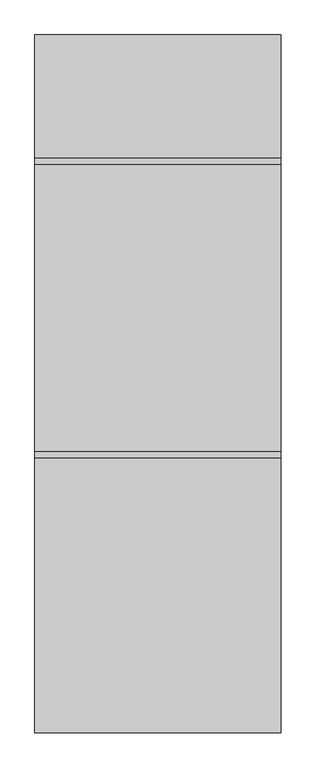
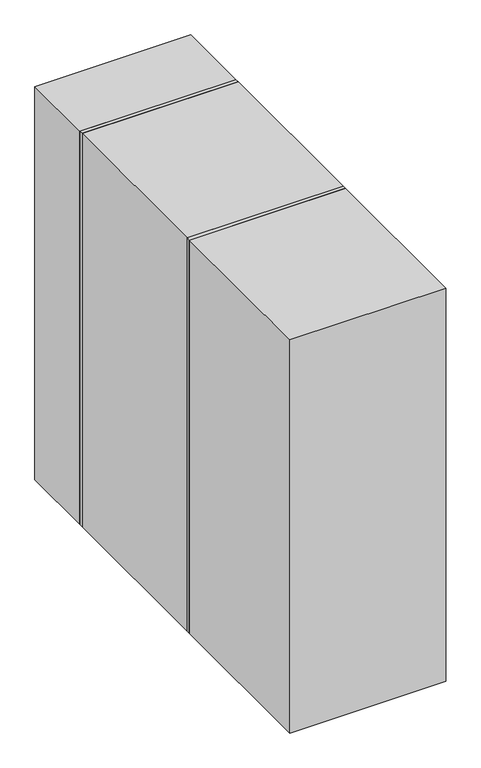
"""IFC4 building model written with IfcOpenShell, lengths in millimetres: furniture geometry, BIMHealth-Gradient_Coil_Heat_Exchanger_Cabinet -LOD2A-v1 : BIMHealth-Gradient_Coil_Heat_Exchanger_Cabinet -LOD2A-v1."""

from ifc_helpers import new_model, si_unit, point, frame, frame_2d, origin, origin_with_axes, place, context, project, spatial, polyline, circle_curve, trimmed, segment, composite_curve, outline, extrude, source, transform, mapped, element, save


def furniture_03daf546(model_context):
    return source(origin(), model_context, "Body", "SweptSolid", [
        extrude(outline(composite_curve([segment(polyline([(1024.3395956, -108.1557307), (1044.3395956, -238.1557307)]), True, "CONTINUOUS"), segment(trimmed(circle_curve(frame_2d((1014.3395956, -238.1557307)), 30.0), [point((1044.3395956, -238.1557307))], [point((984.3395956, -238.1557307))], False, "CARTESIAN"), True, "CONTINUOUS"), segment(polyline([(984.3395956, -238.1557307), (1004.3395956, -108.1557307), (1014.3395956, -108.1557307), (1024.3395956, -108.1557307)]), True, "CONTINUOUS")], self_intersect=False), holes=[composite_curve([segment(trimmed(circle_curve(frame_2d((1014.3395956, -238.1557307)), 10.0), [point((1014.3395956, -228.1557307))], [point((1014.3395956, -248.1557307))], True, "CARTESIAN"), True, "CONTINUOUS"), segment(trimmed(circle_curve(frame_2d((1014.3395956, -238.1557307)), 10.0), [point((1014.3395956, -248.1557307))], [point((1014.3395956, -228.1557307))], True, "CARTESIAN"), True, "CONTINUOUS")], self_intersect=False)]), frame((0.0, 374.7447055, 0.0), z_axis=(0.0, 1.0, 0.0), x_axis=(0.0, 0.0, 1.0)), (0.0, 0.0, 1.0), 15.0),
        extrude(outline(composite_curve([segment(trimmed(circle_curve(frame_2d((1014.3398767, -238.1557307)), 10.0), [point((1014.3398767, -228.1557307))], [point((1014.3398767, -248.1557307))], False, "CARTESIAN"), True, "CONTINUOUS"), segment(trimmed(circle_curve(frame_2d((1014.3398767, -238.1557307)), 10.0), [point((1014.3398767, -248.1557307))], [point((1014.3398767, -228.1557307))], False, "CARTESIAN"), True, "CONTINUOUS")], self_intersect=False)), frame((0.0, 365.0, 0.0), z_axis=(0.0, 1.0, 0.0), x_axis=(0.0, 0.0, 1.0)), (0.0, 0.0, 1.0), 30.0),
        extrude(outline(polyline([(1600.0, -300.0), (0.0, -300.0), (0.0, 300.0), (1600.0, 300.0), (1600.0, -300.0)]), holes=[polyline([(1500.0, -200.0), (1500.0, 200.0), (1485.0, 200.0), (1485.0, -200.0), (1500.0, -200.0)]), polyline([(1460.0, -200.0), (1460.0, 200.0), (1445.0, 200.0), (1445.0, -200.0), (1460.0, -200.0)]), polyline([(1420.0, -200.0), (1420.0, 200.0), (1405.0, 200.0), (1405.0, -200.0), (1420.0, -200.0)]), polyline([(1380.0, -200.0), (1380.0, 200.0), (1365.0, 200.0), (1365.0, -200.0), (1380.0, -200.0)]), polyline([(1340.0, -200.0), (1340.0, 200.0), (1325.0, 200.0), (1325.0, -200.0), (1340.0, -200.0)]), polyline([(1300.0, -200.0), (1300.0, 200.0), (1285.0, 200.0), (1285.0, -200.0), (1300.0, -200.0)]), polyline([(100.0, -200.0), (115.0, -200.0), (115.0, 200.0), (100.0, 200.0), (100.0, -200.0)]), polyline([(140.0, -200.0), (155.0, -200.0), (155.0, 200.0), (140.0, 200.0), (140.0, -200.0)]), polyline([(180.0, -200.0), (195.0, -200.0), (195.0, 200.0), (180.0, 200.0), (180.0, -200.0)]), polyline([(220.0, -200.0), (235.0, -200.0), (235.0, 200.0), (220.0, 200.0), (220.0, -200.0)]), polyline([(260.0, -200.0), (275.0, -200.0), (275.0, 200.0), (260.0, 200.0), (260.0, -200.0)]), polyline([(300.0, -200.0), (315.0, -200.0), (315.0, 200.0), (300.0, 200.0), (300.0, -200.0)]), polyline([(690.0, -200.0), (705.0, -200.0), (705.0, 200.0), (690.0, 200.0), (690.0, -200.0)]), polyline([(730.0, -200.0), (745.0, -200.0), (745.0, 200.0), (730.0, 200.0), (730.0, -200.0)]), polyline([(770.0, -200.0), (785.0, -200.0), (785.0, 200.0), (770.0, 200.0), (770.0, -200.0)]), polyline([(810.0, -200.0), (825.0, -200.0), (825.0, 200.0), (810.0, 200.0), (810.0, -200.0)]), polyline([(850.0, -200.0), (865.0, -200.0), (865.0, 200.0), (850.0, 200.0), (850.0, -200.0)]), polyline([(890.0, -200.0), (905.0, -200.0), (905.0, 200.0), (890.0, 200.0), (890.0, -200.0)])]), frame((0.0, 350.0, 0.0), z_axis=(0.0, 1.0, 0.0), x_axis=(0.0, 0.0, 1.0)), (0.0, 0.0, 1.0), 15.0),
        extrude(outline(composite_curve([segment(polyline([(1024.3395956, 108.1557307), (1014.3395956, 108.1557307), (1004.3395956, 108.1557307), (984.3395956, 238.1557307)]), True, "CONTINUOUS"), segment(trimmed(circle_curve(frame_2d((1014.3395956, 238.1557307)), 30.0), [point((984.3395956, 238.1557307))], [point((1044.3395956, 238.1557307))], False, "CARTESIAN"), True, "CONTINUOUS"), segment(polyline([(1044.3395956, 238.1557307), (1024.3395956, 108.1557307)]), True, "CONTINUOUS")], self_intersect=False), holes=[composite_curve([segment(trimmed(circle_curve(frame_2d((1014.3395956, 238.1557307)), 10.0), [point((1014.3395956, 228.1557307))], [point((1014.3395956, 248.1557307))], True, "CARTESIAN"), True, "CONTINUOUS"), segment(trimmed(circle_curve(frame_2d((1014.3395956, 238.1557307)), 10.0), [point((1014.3395956, 248.1557307))], [point((1014.3395956, 228.1557307))], True, "CARTESIAN"), True, "CONTINUOUS")], self_intersect=False)]), frame((0.0, -389.7447055, 0.0), z_axis=(0.0, 1.0, 0.0), x_axis=(0.0, 0.0, 1.0)), (0.0, 0.0, 1.0), 15.0),
        extrude(outline(composite_curve([segment(trimmed(circle_curve(frame_2d((1014.3398767, 238.1557307)), 10.0), [point((1014.3398767, 228.1557307))], [point((1014.3398767, 248.1557307))], False, "CARTESIAN"), True, "CONTINUOUS"), segment(trimmed(circle_curve(frame_2d((1014.3398767, 238.1557307)), 10.0), [point((1014.3398767, 248.1557307))], [point((1014.3398767, 228.1557307))], False, "CARTESIAN"), True, "CONTINUOUS")], self_intersect=False)), frame((0.0, -395.0, 0.0), z_axis=(0.0, 1.0, 0.0), x_axis=(0.0, 0.0, 1.0)), (0.0, 0.0, 1.0), 30.0),
        extrude(outline(polyline([(1600.0, 300.0), (1600.0, -300.0), (0.0, -300.0), (0.0, 300.0), (1600.0, 300.0)]), holes=[polyline([(1500.0, 200.0), (1485.0, 200.0), (1485.0, -200.0), (1500.0, -200.0), (1500.0, 200.0)]), polyline([(1460.0, 200.0), (1445.0, 200.0), (1445.0, -200.0), (1460.0, -200.0), (1460.0, 200.0)]), polyline([(1420.0, 200.0), (1405.0, 200.0), (1405.0, -200.0), (1420.0, -200.0), (1420.0, 200.0)]), polyline([(1380.0, 200.0), (1365.0, 200.0), (1365.0, -200.0), (1380.0, -200.0), (1380.0, 200.0)]), polyline([(1340.0, 200.0), (1325.0, 200.0), (1325.0, -200.0), (1340.0, -200.0), (1340.0, 200.0)]), polyline([(1300.0, 200.0), (1285.0, 200.0), (1285.0, -200.0), (1300.0, -200.0), (1300.0, 200.0)]), polyline([(100.0, 200.0), (100.0, -200.0), (115.0, -200.0), (115.0, 200.0), (100.0, 200.0)]), polyline([(140.0, 200.0), (140.0, -200.0), (155.0, -200.0), (155.0, 200.0), (140.0, 200.0)]), polyline([(180.0, 200.0), (180.0, -200.0), (195.0, -200.0), (195.0, 200.0), (180.0, 200.0)]), polyline([(220.0, 200.0), (220.0, -200.0), (235.0, -200.0), (235.0, 200.0), (220.0, 200.0)]), polyline([(260.0, 200.0), (260.0, -200.0), (275.0, -200.0), (275.0, 200.0), (260.0, 200.0)]), polyline([(300.0, 200.0), (300.0, -200.0), (315.0, -200.0), (315.0, 200.0), (300.0, 200.0)]), polyline([(690.0, 200.0), (690.0, -200.0), (705.0, -200.0), (705.0, 200.0), (690.0, 200.0)]), polyline([(730.0, 200.0), (730.0, -200.0), (745.0, -200.0), (745.0, 200.0), (730.0, 200.0)]), polyline([(770.0, 200.0), (770.0, -200.0), (785.0, -200.0), (785.0, 200.0), (770.0, 200.0)]), polyline([(810.0, 200.0), (810.0, -200.0), (825.0, -200.0), (825.0, 200.0), (810.0, 200.0)]), polyline([(850.0, 200.0), (850.0, -200.0), (865.0, -200.0), (865.0, 200.0), (850.0, 200.0)]), polyline([(890.0, 200.0), (890.0, -200.0), (905.0, -200.0), (905.0, 200.0), (890.0, 200.0)])]), frame((0.0, -365.0, 0.0), z_axis=(0.0, 1.0, 0.0), x_axis=(0.0, 0.0, 1.0)), (0.0, 0.0, 1.0), 15.0),
        extrude(outline(polyline([(0.0, 300.0), (1600.0, 300.0), (1600.0, -300.0), (0.0, -300.0), (0.0, 300.0)]), holes=[polyline([(1575.0, -275.0), (1575.0, 275.0), (25.0, 275.0), (25.0, -275.0), (1575.0, -275.0)])]), frame((0.0, -350.0, 0.0), z_axis=(0.0, 1.0, 0.0), x_axis=(0.0, 0.0, 1.0)), (0.0, 0.0, 1.0), 700.0),
        extrude(outline(polyline([(300.0, 365.0), (-300.0, 365.0), (-300.0, 665.0), (300.0, 665.0), (300.0, 365.0)])), origin_with_axes(), (0.0, 0.0, 1.0), 1600.0),
        extrude(outline(polyline([(300.0, -365.0), (300.0, -1035.0), (-300.0, -1035.0), (-300.0, -365.0), (300.0, -365.0)])), origin_with_axes(), (0.0, 0.0, 1.0), 1600.0),
    ])


if __name__ == "__main__":
    model = new_model("IFC4")
    model_context = context("Model", 3, world=origin())
    ifc_project = project(units=[si_unit("LENGTHUNIT", "METRE", prefix="MILLI")], contexts=[model_context])
    site = spatial("IfcSite", under=ifc_project)
    building = spatial("IfcBuilding", under=site)
    placement = place(None, origin())
    furniture_shape = furniture_03daf546(model_context)
    element("IfcFurniture", 1, ObjectType="BIMHealth-Gradient_Coil_Heat_Exchanger_Cabinet -LOD2A-v1 : BIMHealth-Gradient_Coil_Heat_Exchanger_Cabinet -LOD2A-v1", at=placement, inside=building, context=model_context, shape_type="MappedRepresentation", body=[
        mapped(furniture_shape, transform((0.0, 0.0, 0.0), x_axis=(1.0, 0.0, 0.0), y_axis=(0.0, 1.0, 0.0), z_axis=(0.0, 0.0, 1.0))),
    ])
    save(model, "model.ifc")
